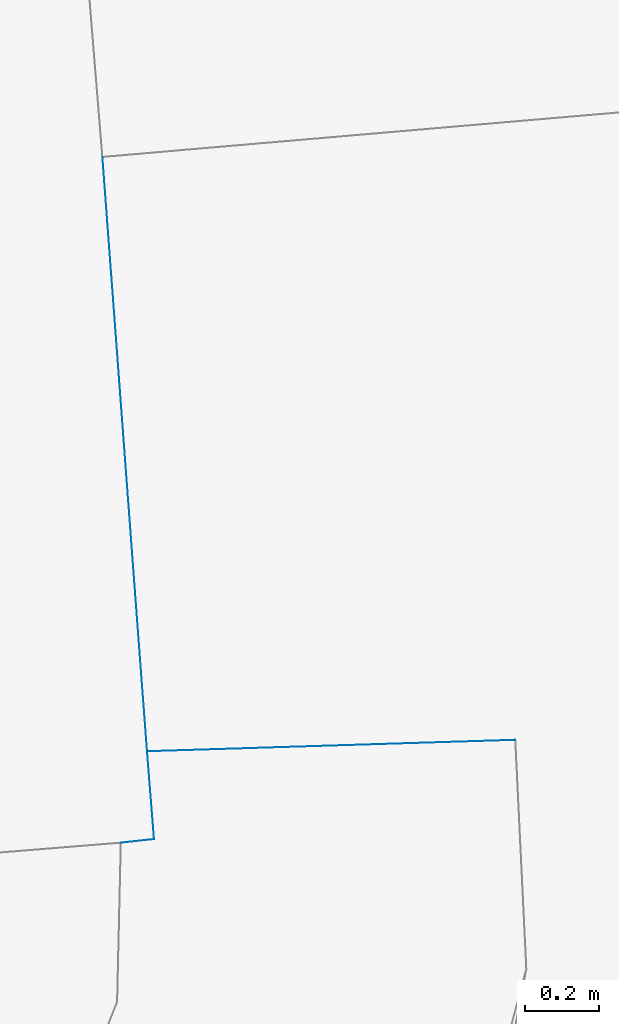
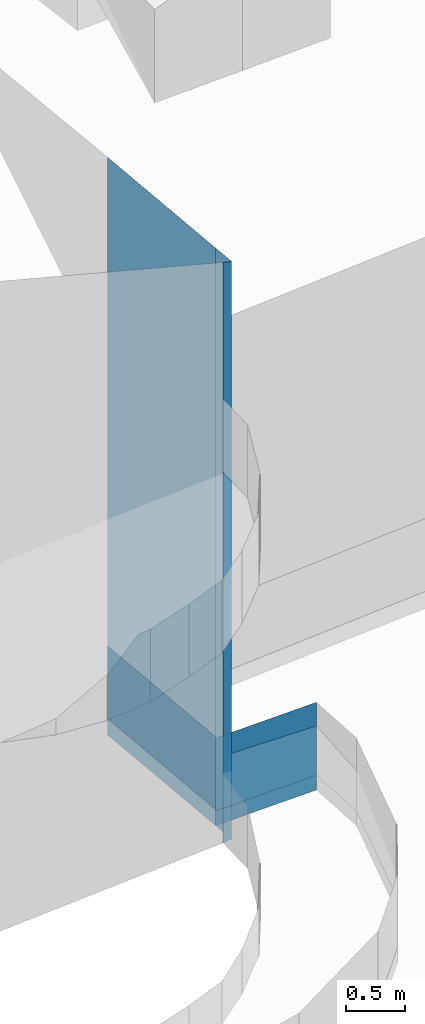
# Not in any storey, part 22 of 59: 9 walls.
"""IFC4 building model written with IfcOpenShell, lengths in metres."""

from ifc_helpers import new_model, entity, si_unit, converted_unit, frame, origin, place, context, subcontext, project, spatial, face_set, surface_model, element, save


model = new_model("IFC4")

# Units and contexts
model_context = context("Model", 3, precision=1e-05, world=origin())
body_context = subcontext(model_context, "Body", "Model", "MODEL_VIEW")
ifc_project = project(units=[converted_unit("PLANEANGLEUNIT", "DEGREE", entity("IfcRatioMeasure", 0.0174532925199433), si_unit("PLANEANGLEUNIT", "RADIAN"), dimensions=[0, 0, 0, 0, 0, 0, 0]), si_unit("AREAUNIT", "SQUARE_METRE"), si_unit("LENGTHUNIT", "METRE")], contexts=[model_context])

# Site, building
site_placement = place(None, origin())
site = spatial("IfcSite", under=ifc_project, at=site_placement, Name="_site")
building_placement = place(site_placement, origin())
building = spatial("IfcBuilding", under=site, at=building_placement, Name="_building")

# Walls
wall_1_placement = place(building_placement, origin())
element("IfcWall", 1, at=wall_1_placement, inside=building, Name="Wall", PredefinedType="NOTDEFINED", context=body_context, shape_type="SurfaceModel", body=[
    surface_model("IfcFaceBasedSurfaceModel", [(240.67, 92.461, 231.96), (240.58, 92.451, 231.988), (240.58, 92.451, 226.017), (240.67, 92.461, 226.017)], [face_set([[[0, 1, 2, 3]]])]),
])
wall_2_placement = place(building_placement, origin())
element("IfcWall", 2, at=wall_2_placement, inside=building, Name="Wall", PredefinedType="NOTDEFINED", context=body_context, shape_type="SurfaceModel", body=[
    surface_model("IfcFaceBasedSurfaceModel", [(240.651, 92.699, 231.96), (240.67, 92.461, 231.96), (240.67, 92.461, 226.017), (240.651, 92.699, 226.018)], [face_set([[[0, 1, 2, 3]]])]),
])
wall_3_placement = place(building_placement, origin())
element("IfcWall", 3, at=wall_3_placement, inside=building, Name="Wall", PredefinedType="NOTDEFINED", context=body_context, shape_type="SurfaceModel", body=[
    surface_model("IfcFaceBasedSurfaceModel", [(240.53, 94.311, 231.96), (240.651, 92.699, 231.96), (240.651, 92.699, 226.018), (240.53, 94.311, 226.017)], [face_set([[[0, 1, 2, 3]]])]),
])
for number, where, name in (
    (4, (0.0, 0.0, 0.0), "Wall"),
    (5, (0.0, 0.0, 0.0), "Wall"),
):
    element("IfcWall", number, at=place(building_placement, frame(where)), inside=building, Name=name, PredefinedType="NOTDEFINED", context=body_context, shape_type="SurfaceModel", body=[
        surface_model("IfcFaceBasedSurfaceModel", [(240.53, 94.311, 226.183), (240.651, 92.699, 226.183), (240.651, 92.699, 226.933), (240.53, 94.311, 226.933)], [face_set([[[0, 1, 2, 3]]])]),
    ])
for number, where, name in (
    (6, (0.0, 0.0, 0.0), "Wall"),
    (7, (0.0, 0.0, 0.0), "Wall"),
):
    element("IfcWall", number, at=place(building_placement, frame(where)), inside=building, Name=name, PredefinedType="NOTDEFINED", context=body_context, shape_type="SurfaceModel", body=[
        surface_model("IfcFaceBasedSurfaceModel", [(240.651, 92.699, 226.17), (241.65, 92.73, 226.17), (241.65, 92.73, 226.92), (240.651, 92.699, 226.92)], [face_set([[[0, 1, 2, 3]]])]),
    ])
wall_4_placement = place(building_placement, origin())
element("IfcWall", 8, at=wall_4_placement, inside=building, Name="Wall", PredefinedType="NOTDEFINED", context=body_context, shape_type="SurfaceModel", body=[
    surface_model("IfcFaceBasedSurfaceModel", [(240.651, 92.699, 226.71), (241.65, 92.73, 226.676), (241.65, 92.73, 226.016), (240.651, 92.699, 226.018)], [face_set([[[0, 1, 2, 3]]])]),
])
wall_5_placement = place(building_placement, origin())
element("IfcWall", 9, at=wall_5_placement, inside=building, Name="Wall", PredefinedType="NOTDEFINED", context=body_context, shape_type="SurfaceModel", body=[
    surface_model("IfcFaceBasedSurfaceModel", [(241.65, 92.73, 226.17), (240.651, 92.699, 226.17), (240.651, 92.699, 226.018), (241.65, 92.73, 226.016)], [face_set([[[0, 1, 2, 3]]])]),
])

save(model, "model.ifc")
